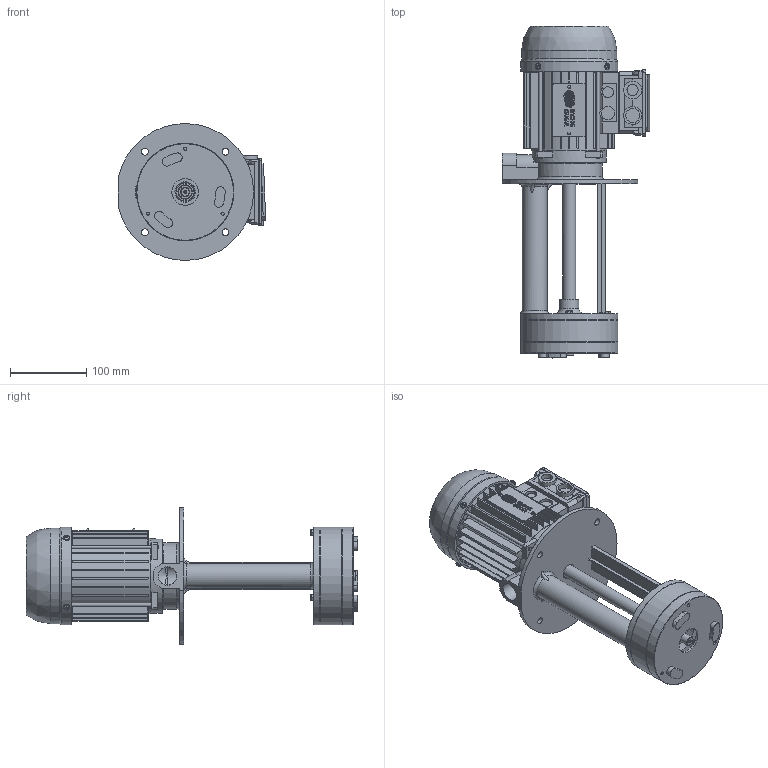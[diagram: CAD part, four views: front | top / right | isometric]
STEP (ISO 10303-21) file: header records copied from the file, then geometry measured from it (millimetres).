
FILE_DESCRIPTION(/* description */ (''),/* implementation_level */ '2;1');
FILE_NAME(/* name */ 'T:\PROGETTI\2019 - REVISIONE CATALOGHI\STEP\MP 63-71\YT63MPC++230.stp',/* time_stamp */ '2019-05-20T14:15:43+02:00',/* author */ ('cboccato'),/* organization */ (''),/* preprocessor_version */ 'ST-DEVELOPER v17.2',/* originating_system */ 'Autodesk Inventor 2019',/* authorisation */ '');
FILE_SCHEMA (('CONFIG_CONTROL_DESIGN'));
Products named in the file (1): YT63MPC++230_iLogic_Shrinkwrap
Bounding box: 193.93 x 436.27 x 179.97 mm (x, y, z)
Volume: 1245338.3 mm3; surface area: 585773.3 mm2
Topology: 99 solids, 113 shells, 2845 faces, 7441 edges, 4940 vertices
Faces by surface type: plane 1870, cylinder 609, cone 209, bspline 88, torus 55, sphere 14
Full cylindrical faces by diameter (mm): 2 x2, 2.53 x2, 3 x4, 3.2 x7, 3.5 x4, 3.8 x1, 3.9 x4, 4 x4, 4.134 x3, 4.3 x4, 4.35 x4, 4.459 x4, 4.6 x4, 5 x3, 5.5 x3, 6.9 x3, 7.2 x4, 7.6 x1, 9 x4, 9.6 x4, 12 x2, 14 x1, 14.4 x2, 14.8 x1, 15 x2, 16 x1, 16.2 x1, 17 x4, 17.4 x2, 17.55 x1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
Entity records: 96948 total; most frequent: CARTESIAN_POINT 22793, ORIENTED_EDGE 15074, DIRECTION 14043, EDGE_CURVE 7537, VERTEX_POINT 5134, LINE 4891, VECTOR 4891, AXIS2_PLACEMENT_3D 4576
